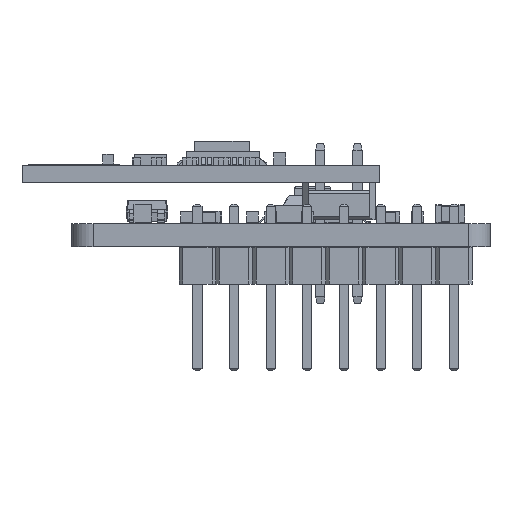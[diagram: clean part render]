
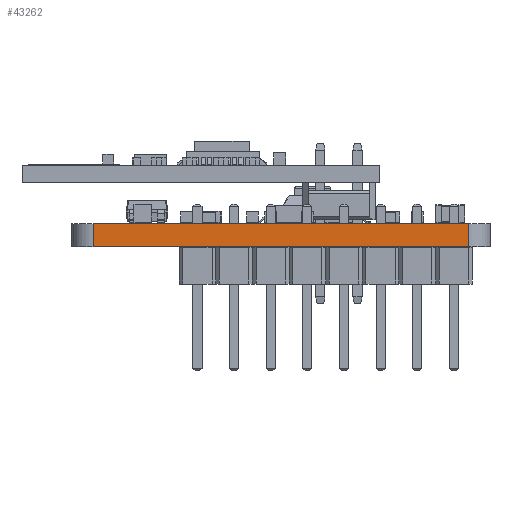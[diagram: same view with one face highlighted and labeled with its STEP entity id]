
A CAD part, left-side view. The second image highlights one B-rep face of the part: STEP entity #43262.
In plain terms, the highlighted planar face has unit normal (-1, 0, 0).
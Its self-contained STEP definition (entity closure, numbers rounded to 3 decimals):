
#42603 = VERTEX_POINT('',#42604);
#42604 = CARTESIAN_POINT('',(-2.,25.,0.));
#42611 = EDGE_CURVE('',#42612,#42603,#42614,.T.);
#42612 = VERTEX_POINT('',#42613);
#42613 = CARTESIAN_POINT('',(-2.,-1.,0.));
#42614 = LINE('',#42615,#42616);
#42615 = CARTESIAN_POINT('',(-2.,-1.,0.));
#42616 = VECTOR('',#42617,1.);
#42617 = DIRECTION('',(0.,1.,0.));
#42919 = VERTEX_POINT('',#42920);
#42920 = CARTESIAN_POINT('',(-2.,25.,1.6));
#42927 = EDGE_CURVE('',#42928,#42919,#42930,.T.);
#42928 = VERTEX_POINT('',#42929);
#42929 = CARTESIAN_POINT('',(-2.,-1.,1.6));
#42930 = LINE('',#42931,#42932);
#42931 = CARTESIAN_POINT('',(-2.,-1.,1.6));
#42932 = VECTOR('',#42933,1.);
#42933 = DIRECTION('',(0.,1.,0.));
#43232 = EDGE_CURVE('',#42603,#42919,#43233,.T.);
#43233 = LINE('',#43234,#43235);
#43234 = CARTESIAN_POINT('',(-2.,25.,0.));
#43235 = VECTOR('',#43236,1.);
#43236 = DIRECTION('',(0.,0.,1.));
#43262 = ADVANCED_FACE('',(#43263),#43274,.T.);
#43263 = FACE_BOUND('',#43264,.T.);
#43264 = EDGE_LOOP('',(#43265,#43271,#43272,#43273));
#43265 = ORIENTED_EDGE('',*,*,#43266,.T.);
#43266 = EDGE_CURVE('',#42612,#42928,#43267,.T.);
#43267 = LINE('',#43268,#43269);
#43268 = CARTESIAN_POINT('',(-2.,-1.,0.));
#43269 = VECTOR('',#43270,1.);
#43270 = DIRECTION('',(0.,0.,1.));
#43271 = ORIENTED_EDGE('',*,*,#42927,.T.);
#43272 = ORIENTED_EDGE('',*,*,#43232,.F.);
#43273 = ORIENTED_EDGE('',*,*,#42611,.F.);
#43274 = PLANE('',#43275);
#43275 = AXIS2_PLACEMENT_3D('',#43276,#43277,#43278);
#43276 = CARTESIAN_POINT('',(-2.,-1.,0.));
#43277 = DIRECTION('',(-1.,0.,0.));
#43278 = DIRECTION('',(0.,1.,0.));
